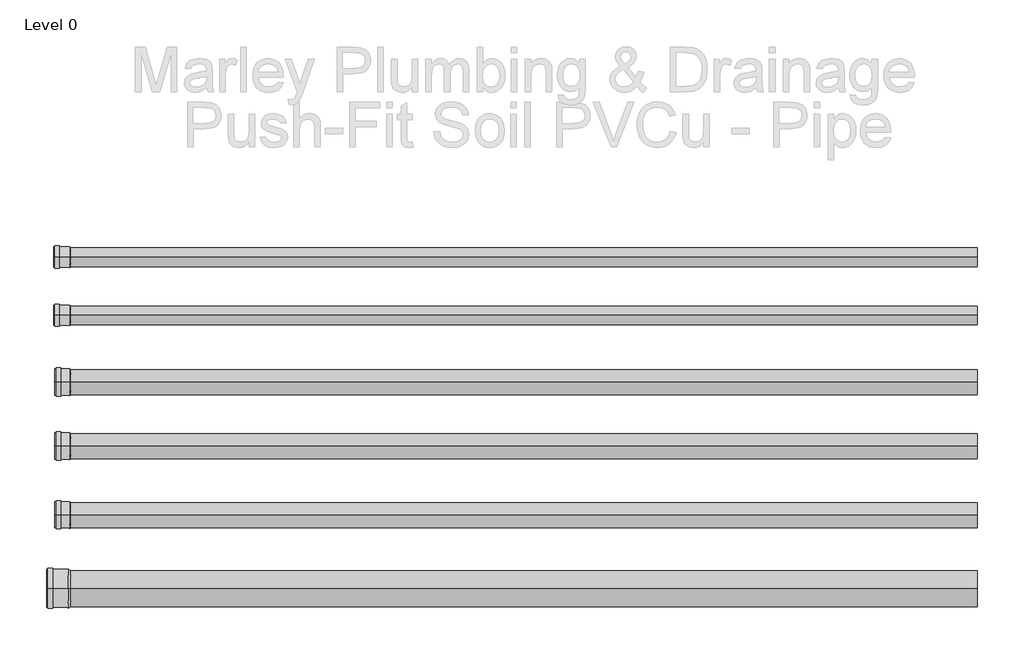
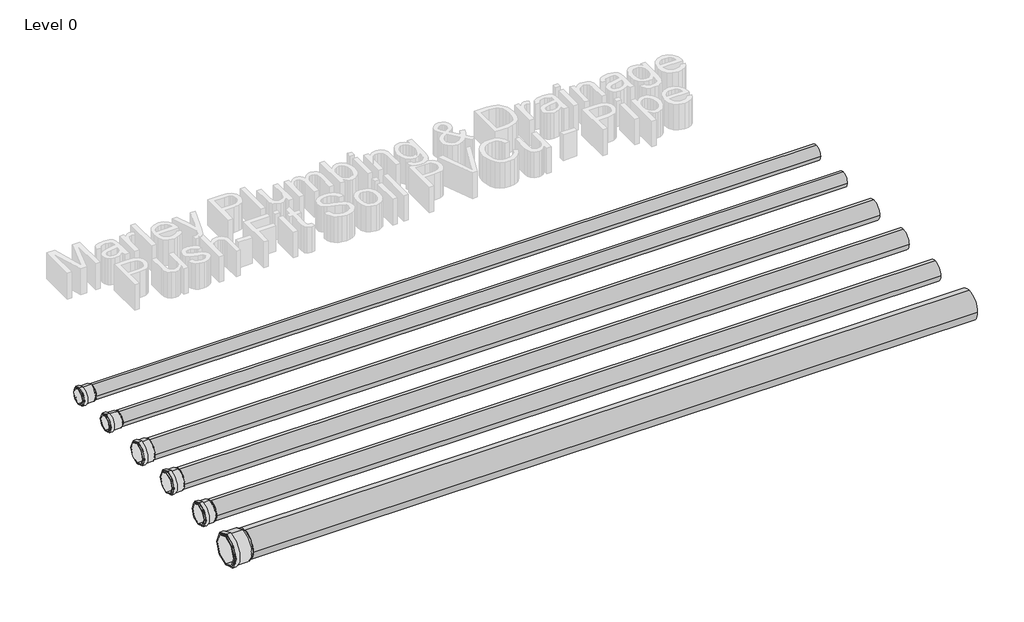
# One storey, part 1 of 2: 6 pipe fittings, 6 pipe segments.
"""IFC4 building model written with IfcOpenShell, lengths in millimetres."""

import ifcopenshell
import ifcopenshell.guid

model = None  # the IFC model being written
_history = None  # IfcOwnerHistory: only IFC2X3 demands one
_inside = {}  # id of a spatial element -> (the spatial element, [elements in it])
_under = {}  # id of a project, library or spatial element -> (it, [spatial elements below it])
_declared = {}  # id of a project -> (the project, [libraries it declares])
_typed = {}  # id of a type object -> (the type object, [elements of that type])
_made_of = {}  # id of a material, layer set ... -> (it, [elements and type objects made of it])


def new_model(schema):
    """Start an empty IFC model of exactly this schema.

    Asked for "IFC4X3", IfcOpenShell would pick the latest addendum, in which some entities
    have other attributes; the version numbers below select the first issue.
    IFC2X3 requires an IfcOwnerHistory on every rooted entity: one is made here for all.
    """
    global model, _history
    if schema == "IFC4X3":
        model = ifcopenshell.file(schema_version=(4, 3, 0, 0))
    else:
        model = ifcopenshell.file(schema=schema)
    _inside.clear()
    _under.clear()
    _declared.clear()
    _typed.clear()
    _made_of.clear()
    _history = None
    if model.schema == "IFC2X3":
        org = make("IfcOrganization", Name="unknown")
        user = make(
            "IfcPersonAndOrganization",
            ThePerson=make("IfcPerson", FamilyName="unknown"),
            TheOrganization=org,
        )
        app = make(
            "IfcApplication",
            ApplicationDeveloper=org,
            Version="unknown",
            ApplicationFullName="unknown",
            ApplicationIdentifier="unknown",
        )
        _history = make(
            "IfcOwnerHistory",
            OwningUser=user,
            OwningApplication=app,
            ChangeAction="ADDED",
            CreationDate=0,
        )
    return model


def make(cls, **values):
    """One entity of the class cls with the attributes given. An attribute that is None is left unset."""
    return model.create_entity(
        cls, **{name: value for name, value in values.items() if value is not None}
    )


def rooted(cls, **values):
    """An entity with a GlobalId (a new one), such as an element, a storey or a relation."""
    return make(cls, GlobalId=ifcopenshell.guid.new(), OwnerHistory=_history, **values)


def si_unit(unit_type, name, prefix=None):
    """IfcSIUnit, for example si_unit("LENGTHUNIT", "METRE", prefix="MILLI")."""
    return make("IfcSIUnit", UnitType=unit_type, Prefix=prefix, Name=name)


def assignment(units):
    """IfcUnitAssignment: the units of a project."""
    return None if units is None else make("IfcUnitAssignment", Units=units)


def point(xyz):
    """IfcCartesianPoint."""
    return None if xyz is None else make("IfcCartesianPoint", Coordinates=xyz)


def direction(xyz):
    """IfcDirection."""
    return None if xyz is None else make("IfcDirection", DirectionRatios=xyz)


def frame(location, z_axis=None, x_axis=None):
    """IfcAxis2Placement3D, a coordinate frame: its origin and axes. An axis left out is left unset."""
    return make(
        "IfcAxis2Placement3D",
        Location=point(location),
        Axis=direction(z_axis),
        RefDirection=direction(x_axis),
    )


def frame_2d(location, x_axis=None):
    """IfcAxis2Placement2D, a coordinate frame in the plane: its origin and x axis."""
    return make(
        "IfcAxis2Placement2D", Location=point(location), RefDirection=direction(x_axis)
    )


def origin():
    """The frame at (0, 0, 0) with its axes left unset."""
    return frame((0.0, 0.0, 0.0))


def place(relative_to, where):
    """IfcLocalPlacement: puts the frame where relative to a parent placement (None: the world)."""
    return make(
        "IfcLocalPlacement", PlacementRelTo=relative_to, RelativePlacement=where
    )


def context(
    kind, dimensions, precision=None, world=None, true_north=None, identifier=None
):
    """IfcGeometricRepresentationContext, for example the 3D "Model" context."""
    return make(
        "IfcGeometricRepresentationContext",
        ContextIdentifier=identifier,
        ContextType=kind,
        CoordinateSpaceDimension=dimensions,
        Precision=precision,
        WorldCoordinateSystem=world,
        TrueNorth=true_north,
    )


def project(units=None, contexts=None):
    """IfcProject with its units and contexts."""
    return rooted(
        "IfcProject",
        Name="project",
        RepresentationContexts=contexts,
        UnitsInContext=assignment(units),
    )


def spatial(cls, under=None, at=None, **own):
    """A site, building, storey or space (cls), placed at a placement, below another one or the project."""
    s = rooted(cls, ObjectPlacement=at, **own)
    if under is not None:
        _under.setdefault(under.id(), (under, []))[1].append(s)
    return s


def polyline(points):
    """IfcPolyline through the points."""
    return make("IfcPolyline", Points=[point(p) for p in points])


def circle_curve(where, radius):
    """IfcCircle in the frame where."""
    return make("IfcCircle", Position=where, Radius=radius)


def trimmed(basis, trim1, trim2, sense, master):
    """IfcTrimmedCurve: the piece of a basis curve between two trims."""
    return make(
        "IfcTrimmedCurve",
        BasisCurve=basis,
        Trim1=trim1,
        Trim2=trim2,
        SenseAgreement=sense,
        MasterRepresentation=master,
    )


def segment(curve, same_sense, transition):
    """IfcCompositeCurveSegment."""
    return make(
        "IfcCompositeCurveSegment",
        Transition=transition,
        SameSense=same_sense,
        ParentCurve=curve,
    )


def composite_curve(segments, self_intersect=None):
    """IfcCompositeCurve: segments joined end to end."""
    return make("IfcCompositeCurve", Segments=segments, SelfIntersect=self_intersect)


def outline(outer, holes=None, kind="AREA"):
    """IfcArbitraryClosedProfileDef: a profile drawn as a closed curve; with holes, ...WithVoids."""
    if holes is None:
        return make("IfcArbitraryClosedProfileDef", ProfileType=kind, OuterCurve=outer)
    return make(
        "IfcArbitraryProfileDefWithVoids",
        ProfileType=kind,
        OuterCurve=outer,
        InnerCurves=holes,
    )


def extrude(swept, where, along, depth):
    """IfcExtrudedAreaSolid: the profile swept, set in the frame where, extruded along a direction by depth."""
    return make(
        "IfcExtrudedAreaSolid",
        SweptArea=swept,
        Position=where,
        ExtrudedDirection=direction(along),
        Depth=depth,
    )


def shape(context_of_items, identifier, shape_type, items):
    """IfcShapeRepresentation: the items that make up one representation, for example the "Body"."""
    return make(
        "IfcShapeRepresentation",
        ContextOfItems=context_of_items,
        RepresentationIdentifier=identifier,
        RepresentationType=shape_type,
        Items=items,
    )


def source(mapping_origin, context_of_items, identifier, shape_type, items):
    """IfcRepresentationMap: a shape defined once, which mapped items show again and again."""
    return make(
        "IfcRepresentationMap",
        MappingOrigin=mapping_origin,
        MappedRepresentation=shape(context_of_items, identifier, shape_type, items),
    )


def transform(
    local_origin,
    x_axis=None,
    y_axis=None,
    z_axis=None,
    scale=None,
    scale2=None,
    scale3=None,
    uniform=True,
):
    """IfcCartesianTransformationOperator3D, or its non-uniform kind. x_axis, y_axis, z_axis: its Axis1, 2, 3."""
    if uniform:
        return make(
            "IfcCartesianTransformationOperator3D",
            Axis1=direction(x_axis),
            Axis2=direction(y_axis),
            LocalOrigin=point(local_origin),
            Scale=scale,
            Axis3=direction(z_axis),
        )
    return make(
        "IfcCartesianTransformationOperator3DnonUniform",
        Axis1=direction(x_axis),
        Axis2=direction(y_axis),
        LocalOrigin=point(local_origin),
        Scale=scale,
        Axis3=direction(z_axis),
        Scale2=scale2,
        Scale3=scale3,
    )


def mapped(mapping_source, mapping_target):
    """IfcMappedItem: shows the shape of a source again, moved by a transform."""
    return make(
        "IfcMappedItem", MappingSource=mapping_source, MappingTarget=mapping_target
    )


def made_of(thing, what):
    """Note that an element or type object is made of a material, layer set ...; save() writes the relation."""
    if what is not None:
        _made_of.setdefault(what.id(), (what, []))[1].append(thing)
    return thing


def element(
    cls,
    number,
    at=None,
    inside=None,
    cuts=None,
    type_object=None,
    material=None,
    context=None,
    identifier="Body",
    shape_type=None,
    held_by="IfcProductDefinitionShape",
    body=None,
    shapes=None,
    **own,
):
    """One element of the class cls, such as IfcWall. Its Tag is "e" and its number.

    at: its placement. inside: the storey or other place that contains it. cuts: it is an
    opening in that element (IfcRelVoidsElement). A single representation is given by context,
    identifier, shape_type and body (its items); several are given by shapes. held_by: the class
    of the entity that holds the representations. save() writes the other relations.
    """
    e = rooted(cls, Tag="e%d" % number, ObjectPlacement=at, **own)
    if body is not None:
        shapes = [shape(context, identifier, shape_type, body)]
    if shapes is not None:
        e.Representation = make(held_by, Representations=shapes)
    if inside is not None:
        _inside.setdefault(inside.id(), (inside, []))[1].append(e)
    if cuts is not None:
        rooted(
            "IfcRelVoidsElement", RelatingBuildingElement=cuts, RelatedOpeningElement=e
        )
    if type_object is not None:
        _typed.setdefault(type_object.id(), (type_object, []))[1].append(e)
    return made_of(e, material)


def aggregate(whole, parts):
    """IfcRelAggregates: a whole, such as a stair, and the parts it consists of."""
    return rooted("IfcRelAggregates", RelatingObject=whole, RelatedObjects=parts)


def save(model, path):
    """Write the relations noted so far, then the file.

    IfcRelAggregates (storeys below a building ...), IfcRelContainedInSpatialStructure (elements
    in a storey), IfcRelDefinesByType, IfcRelAssociatesMaterial and IfcRelDeclares: one each for
    every whole, place, type object, material and project.
    """
    for whole, parts in _under.values():
        aggregate(whole, parts)
    for where, things in _inside.values():
        rooted(
            "IfcRelContainedInSpatialStructure",
            RelatedElements=things,
            RelatingStructure=where,
        )
    for kind, things in _typed.values():
        rooted("IfcRelDefinesByType", RelatedObjects=things, RelatingType=kind)
    for what, things in _made_of.values():
        rooted("IfcRelAssociatesMaterial", RelatedObjects=things, RelatingMaterial=what)
    for by, libraries in _declared.values():
        rooted("IfcRelDeclares", RelatingContext=by, RelatedDefinitions=libraries)
    model.write(path)


def plane_surface(at):
    """IfcPlane: the flat surface through the origin of the frame at, square to its z axis."""
    return make("IfcPlane", Position=at)


def cylinder_surface(at, radius):
    """IfcCylindricalSurface: all points at the distance radius from the z axis of the frame at."""
    return make("IfcCylindricalSurface", Position=at, Radius=radius)


def revolved_surface(curve, axis_point, axis_direction):
    """IfcSurfaceOfRevolution: the curve turned about the line through axis_point along axis_direction."""
    return make(
        "IfcSurfaceOfRevolution",
        SweptCurve=make("IfcArbitraryOpenProfileDef", ProfileType="CURVE", Curve=curve),
        AxisPosition=make("IfcAxis1Placement", Location=point(axis_point), Axis=direction(axis_direction)),
    )


def advanced_brep(points, edges, surfaces, faces):
    """IfcAdvancedBrep: a solid bounded by faces that lie on surfaces and meet in shared edges.

    An edge is (start, end): straight between two places in points (the first is 0);
    or (start, end, curve); or (start, end, curve, False) where it runs against its curve.
    A face is (place in surfaces, loops), or (place, loops, False) where it looks against
    its surface's normal. A loop lists edges by number (the first is 1), with a minus sign
    where the edge is run from its end to its start. The first loop is the outer one.
    """
    corners = [point(p) for p in points]
    vertices = [make("IfcVertexPoint", VertexGeometry=c) for c in corners]
    made = []
    for start, end, *more in edges:
        made.append(
            make(
                "IfcEdgeCurve",
                EdgeStart=vertices[start],
                EdgeEnd=vertices[end],
                EdgeGeometry=more[0] if more else make("IfcPolyline", Points=[corners[start], corners[end]]),
                SameSense=more[1] if len(more) > 1 else True,
            )
        )
    hull = []
    for where, loops, *sense in faces:
        bounds = []
        for j, loop in enumerate(loops):
            ring = [make("IfcOrientedEdge", EdgeElement=made[abs(k) - 1], Orientation=k > 0) for k in loop]
            bounds.append(
                make(
                    "IfcFaceOuterBound" if j == 0 else "IfcFaceBound",
                    Bound=make("IfcEdgeLoop", EdgeList=ring),
                    Orientation=True,
                )
            )
        hull.append(make("IfcAdvancedFace", Bounds=bounds, FaceSurface=surfaces[where], SameSense=sense[0] if sense else True))
    return make("IfcAdvancedBrep", Outer=make("IfcClosedShell", CfsFaces=hull))


def socket_110mm_black_703dc98e(model_context):
    return source(origin(), model_context, "Body", "AdvancedBrep", [
        advanced_brep(
        [(-14.8253818, 0.0, -55.0), (-14.8253818, 0.0, 55.0), (-9.3253818, 0.0, 59.5), (-9.3253818, 0.0, -59.5), (55.1746182, 0.0, -55.0), (55.1746182, 0.0, 55.0), (55.1746182, 0.0, -59.5), (55.1746182, 0.0, 59.5), (49.1746182, 0.0, -59.5), (49.1746182, 0.0, 59.5), (49.1746182, 0.0, -64.0), (49.1746182, 0.0, 64.0), (30.1746182, 0.0, -64.0), (30.1746182, 0.0, 64.0), (30.1746182, 0.0, -59.5), (30.1746182, 0.0, 59.5)],
        [
            (0, 1, circle_curve(frame((-14.8253818, 0.0, 0.0), z_axis=(1.0, 0.0, 0.0), x_axis=(0.0, 0.0, 1.0)), 55.0)),
            (1, 2),
            (2, 3, circle_curve(frame((-9.3253818, 0.0, 0.0), z_axis=(-1.0, 0.0, 0.0), x_axis=(0.0, 0.0, 1.0)), 59.5)),
            (3, 0),
            (1, 0, circle_curve(frame((-14.8253818, 0.0, 0.0), z_axis=(1.0, 0.0, 0.0), x_axis=(0.0, 0.0, 1.0)), 55.0)),
            (3, 2, circle_curve(frame((-9.3253818, 0.0, 0.0), z_axis=(-1.0, 0.0, 0.0), x_axis=(0.0, 0.0, 1.0)), 59.5)),
            (4, 5, circle_curve(frame((55.1746182, 0.0, 0.0), z_axis=(1.0, 0.0, 0.0), x_axis=(0.0, 0.0, 1.0)), 55.0)),
            (5, 1),
            (0, 4),
            (5, 4, circle_curve(frame((55.1746182, 0.0, 0.0), z_axis=(1.0, 0.0, 0.0), x_axis=(0.0, 0.0, 1.0)), 55.0)),
            (6, 7, circle_curve(frame((55.1746182, 0.0, 0.0), z_axis=(1.0, 0.0, 0.0), x_axis=(0.0, 0.0, 1.0)), 59.5)),
            (7, 5),
            (4, 6),
            (7, 6, circle_curve(frame((55.1746182, 0.0, 0.0), z_axis=(1.0, 0.0, 0.0), x_axis=(0.0, 0.0, 1.0)), 59.5)),
            (8, 9, circle_curve(frame((49.1746182, 0.0, 0.0), z_axis=(1.0, 0.0, 0.0), x_axis=(0.0, 0.0, 1.0)), 59.5)),
            (9, 7),
            (6, 8),
            (9, 8, circle_curve(frame((49.1746182, 0.0, 0.0), z_axis=(1.0, 0.0, 0.0), x_axis=(0.0, 0.0, 1.0)), 59.5)),
            (10, 11, circle_curve(frame((49.1746182, 0.0, 0.0), z_axis=(1.0, 0.0, 0.0), x_axis=(0.0, 0.0, 1.0)), 64.0)),
            (11, 9),
            (8, 10),
            (11, 10, circle_curve(frame((49.1746182, 0.0, 0.0), z_axis=(1.0, 0.0, 0.0), x_axis=(0.0, 0.0, 1.0)), 64.0)),
            (12, 13, circle_curve(frame((30.1746182, 0.0, 0.0), z_axis=(1.0, 0.0, 0.0), x_axis=(0.0, 0.0, 1.0)), 64.0)),
            (13, 11),
            (10, 12),
            (13, 12, circle_curve(frame((30.1746182, 0.0, 0.0), z_axis=(1.0, 0.0, 0.0), x_axis=(0.0, 0.0, 1.0)), 64.0)),
            (14, 15, circle_curve(frame((30.1746182, 0.0, 0.0), z_axis=(1.0, 0.0, 0.0), x_axis=(0.0, 0.0, 1.0)), 59.5)),
            (15, 13),
            (12, 14),
            (15, 14, circle_curve(frame((30.1746182, 0.0, 0.0), z_axis=(1.0, 0.0, 0.0), x_axis=(0.0, 0.0, 1.0)), 59.5)),
            (2, 15),
            (14, 3),
        ],
        [
            revolved_surface(polyline([(-9.3253818, 0.0, 59.5), (-14.8253818, 0.0, 55.0)]), (-1506.5299635, 0.0, 0.0), (-1.0, 0.0, 0.0)),
            revolved_surface(polyline([(-14.82538180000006, 0.0, 55.0), (55.17461819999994, 0.0, 55.0)]), (-1506.5299635, 0.0, 0.0), (-1.0, 0.0, 0.0)),
            plane_surface(frame((55.1746182, 0.0, 0.0), z_axis=(1.0, 0.0, 0.0), x_axis=(0.0, 0.0, 1.0))),
            cylinder_surface(frame((-1506.5299635, 0.0, 0.0), z_axis=(-1.0, 0.0, 0.0), x_axis=(0.0, 0.0, 1.0)), 59.5),
            plane_surface(frame((49.1746182, 0.0, 0.0), z_axis=(1.0, 0.0, 0.0), x_axis=(0.0, 0.0, 1.0))),
            cylinder_surface(frame((-1506.5299635, 0.0, 0.0), z_axis=(-1.0, 0.0, 0.0), x_axis=(0.0, 0.0, 1.0)), 64.0),
            plane_surface(frame((30.1746182, 0.0, 0.0), z_axis=(-1.0, 0.0, 0.0), x_axis=(0.0, 0.0, 1.0))),
        ],
        [
            (0, [[1, 2, 3, 4]]),
            (0, [[5, -4, 6, -2]]),
            (1, [[7, 8, -1, 9]]),
            (1, [[10, -9, -5, -8]]),
            (2, [[11, 12, -7, 13]]),
            (2, [[14, -13, -10, -12]]),
            (3, [[15, 16, -11, 17]]),
            (3, [[18, -17, -14, -16]]),
            (4, [[19, 20, -15, 21]]),
            (4, [[22, -21, -18, -20]]),
            (5, [[23, 24, -19, 25]]),
            (5, [[26, -25, -22, -24]]),
            (6, [[27, 28, -23, 29]]),
            (6, [[30, -29, -26, -28]]),
            (3, [[-3, 31, -27, 32]]),
            (3, [[-6, -32, -30, -31]]),
        ],
    ),
    ])


def socket_160mm_grey_d93e64ae(model_context):
    return source(origin(), model_context, "Body", "AdvancedBrep", [
        advanced_brep(
        [(-14.8253818, 0.0, -80.0), (-14.8253818, 0.0, 80.0), (-2.8253818, 0.0, 85.5), (-2.8253818, 0.0, -85.5), (92.1746182, 0.0, -80.0), (92.1746182, 0.0, 80.0), (92.1746182, 0.0, -85.5), (92.1746182, 0.0, 85.5), (86.1746182, 0.0, -85.5), (86.1746182, 0.0, 85.5), (86.1746182, 0.0, -91.0), (86.1746182, 0.0, 91.0), (64.1746182, 0.0, -91.0), (64.1746182, 0.0, 91.0), (64.1746182, 0.0, -85.5), (64.1746182, 0.0, 85.5)],
        [
            (0, 1, circle_curve(frame((-14.8253818, 0.0, 0.0), z_axis=(1.0, 0.0, 0.0), x_axis=(0.0, 0.0, 1.0)), 80.0)),
            (1, 2),
            (2, 3, circle_curve(frame((-2.8253818, 0.0, 0.0), z_axis=(-1.0, 0.0, 0.0), x_axis=(0.0, 0.0, 1.0)), 85.5)),
            (3, 0),
            (1, 0, circle_curve(frame((-14.8253818, 0.0, 0.0), z_axis=(1.0, 0.0, 0.0), x_axis=(0.0, 0.0, 1.0)), 80.0)),
            (3, 2, circle_curve(frame((-2.8253818, 0.0, 0.0), z_axis=(-1.0, 0.0, 0.0), x_axis=(0.0, 0.0, 1.0)), 85.5)),
            (4, 5, circle_curve(frame((92.1746182, 0.0, 0.0), z_axis=(1.0, 0.0, 0.0), x_axis=(0.0, 0.0, 1.0)), 80.0)),
            (5, 1),
            (0, 4),
            (5, 4, circle_curve(frame((92.1746182, 0.0, 0.0), z_axis=(1.0, 0.0, 0.0), x_axis=(0.0, 0.0, 1.0)), 80.0)),
            (6, 7, circle_curve(frame((92.1746182, 0.0, 0.0), z_axis=(1.0, 0.0, 0.0), x_axis=(0.0, 0.0, 1.0)), 85.5)),
            (7, 5),
            (4, 6),
            (7, 6, circle_curve(frame((92.1746182, 0.0, 0.0), z_axis=(1.0, 0.0, 0.0), x_axis=(0.0, 0.0, 1.0)), 85.5)),
            (8, 9, circle_curve(frame((86.1746182, 0.0, 0.0), z_axis=(1.0, 0.0, 0.0), x_axis=(0.0, 0.0, 1.0)), 85.5)),
            (9, 7),
            (6, 8),
            (9, 8, circle_curve(frame((86.1746182, 0.0, 0.0), z_axis=(1.0, 0.0, 0.0), x_axis=(0.0, 0.0, 1.0)), 85.5)),
            (10, 11, circle_curve(frame((86.1746182, 0.0, 0.0), z_axis=(1.0, 0.0, 0.0), x_axis=(0.0, 0.0, 1.0)), 91.0)),
            (11, 9),
            (8, 10),
            (11, 10, circle_curve(frame((86.1746182, 0.0, 0.0), z_axis=(1.0, 0.0, 0.0), x_axis=(0.0, 0.0, 1.0)), 91.0)),
            (12, 13, circle_curve(frame((64.1746182, 0.0, 0.0), z_axis=(1.0, 0.0, 0.0), x_axis=(0.0, 0.0, 1.0)), 91.0)),
            (13, 11),
            (10, 12),
            (13, 12, circle_curve(frame((64.1746182, 0.0, 0.0), z_axis=(1.0, 0.0, 0.0), x_axis=(0.0, 0.0, 1.0)), 91.0)),
            (14, 15, circle_curve(frame((64.1746182, 0.0, 0.0), z_axis=(1.0, 0.0, 0.0), x_axis=(0.0, 0.0, 1.0)), 85.5)),
            (15, 13),
            (12, 14),
            (15, 14, circle_curve(frame((64.1746182, 0.0, 0.0), z_axis=(1.0, 0.0, 0.0), x_axis=(0.0, 0.0, 1.0)), 85.5)),
            (2, 15),
            (14, 3),
        ],
        [
            revolved_surface(polyline([(-2.8253818, 0.0, 85.5), (-14.8253818, 0.0, 80.0)]), (-1506.5299635, 0.0, 0.0), (-1.0, 0.0, 0.0)),
            revolved_surface(polyline([(-14.82538180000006, 0.0, 80.0), (92.17461819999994, 0.0, 80.0)]), (-1506.5299635, 0.0, 0.0), (-1.0, 0.0, 0.0)),
            plane_surface(frame((92.1746182, 0.0, 0.0), z_axis=(1.0, 0.0, 0.0), x_axis=(0.0, 0.0, 1.0))),
            cylinder_surface(frame((-1506.5299635, 0.0, 0.0), z_axis=(-1.0, 0.0, 0.0), x_axis=(0.0, 0.0, 1.0)), 85.5),
            plane_surface(frame((86.1746182, 0.0, 0.0), z_axis=(1.0, 0.0, 0.0), x_axis=(0.0, 0.0, 1.0))),
            cylinder_surface(frame((-1506.5299635, 0.0, 0.0), z_axis=(-1.0, 0.0, 0.0), x_axis=(0.0, 0.0, 1.0)), 91.0),
            plane_surface(frame((64.1746182, 0.0, 0.0), z_axis=(-1.0, 0.0, 0.0), x_axis=(0.0, 0.0, 1.0))),
        ],
        [
            (0, [[1, 2, 3, 4]]),
            (0, [[5, -4, 6, -2]]),
            (1, [[7, 8, -1, 9]]),
            (1, [[10, -9, -5, -8]]),
            (2, [[11, 12, -7, 13]]),
            (2, [[14, -13, -10, -12]]),
            (3, [[15, 16, -11, 17]]),
            (3, [[18, -17, -14, -16]]),
            (4, [[19, 20, -15, 21]]),
            (4, [[22, -21, -18, -20]]),
            (5, [[23, 24, -19, 25]]),
            (5, [[26, -25, -22, -24]]),
            (6, [[27, 28, -23, 29]]),
            (6, [[30, -29, -26, -28]]),
            (3, [[-3, 31, -27, 32]]),
            (3, [[-6, -32, -30, -31]]),
        ],
    ),
    ])


def socket_82mm_black_adff162a(model_context):
    return source(origin(), model_context, "Body", "AdvancedBrep", [
        advanced_brep(
        [(-14.8253818, 0.0, -41.0), (-14.8253818, 0.0, 41.0), (-9.3253818, 0.0, 45.5), (-9.3253818, 0.0, -45.5), (61.1746182, 0.0, -41.0), (61.1746182, 0.0, 41.0), (61.1746182, 0.0, -45.5), (61.1746182, 0.0, 45.5), (55.1746182, 0.0, -45.5), (55.1746182, 0.0, 45.5), (55.1746182, 0.0, -50.0), (55.1746182, 0.0, 50.0), (37.1746182, 0.0, -50.0), (37.1746182, 0.0, 50.0), (37.1746182, 0.0, -45.5), (37.1746182, 0.0, 45.5)],
        [
            (0, 1, circle_curve(frame((-14.8253818, 0.0, 0.0), z_axis=(1.0, 0.0, 0.0), x_axis=(0.0, 0.0, 1.0)), 41.0)),
            (1, 2),
            (2, 3, circle_curve(frame((-9.3253818, 0.0, 0.0), z_axis=(-1.0, 0.0, 0.0), x_axis=(0.0, 0.0, 1.0)), 45.5)),
            (3, 0),
            (1, 0, circle_curve(frame((-14.8253818, 0.0, 0.0), z_axis=(1.0, 0.0, 0.0), x_axis=(0.0, 0.0, 1.0)), 41.0)),
            (3, 2, circle_curve(frame((-9.3253818, 0.0, 0.0), z_axis=(-1.0, 0.0, 0.0), x_axis=(0.0, 0.0, 1.0)), 45.5)),
            (4, 5, circle_curve(frame((61.1746182, 0.0, 0.0), z_axis=(1.0, 0.0, 0.0), x_axis=(0.0, 0.0, 1.0)), 41.0)),
            (5, 1),
            (0, 4),
            (5, 4, circle_curve(frame((61.1746182, 0.0, 0.0), z_axis=(1.0, 0.0, 0.0), x_axis=(0.0, 0.0, 1.0)), 41.0)),
            (6, 7, circle_curve(frame((61.1746182, 0.0, 0.0), z_axis=(1.0, 0.0, 0.0), x_axis=(0.0, 0.0, 1.0)), 45.5)),
            (7, 5),
            (4, 6),
            (7, 6, circle_curve(frame((61.1746182, 0.0, 0.0), z_axis=(1.0, 0.0, 0.0), x_axis=(0.0, 0.0, 1.0)), 45.5)),
            (8, 9, circle_curve(frame((55.1746182, 0.0, 0.0), z_axis=(1.0, 0.0, 0.0), x_axis=(0.0, 0.0, 1.0)), 45.5)),
            (9, 7),
            (6, 8),
            (9, 8, circle_curve(frame((55.1746182, 0.0, 0.0), z_axis=(1.0, 0.0, 0.0), x_axis=(0.0, 0.0, 1.0)), 45.5)),
            (10, 11, circle_curve(frame((55.1746182, 0.0, 0.0), z_axis=(1.0, 0.0, 0.0), x_axis=(0.0, 0.0, 1.0)), 50.0)),
            (11, 9),
            (8, 10),
            (11, 10, circle_curve(frame((55.1746182, 0.0, 0.0), z_axis=(1.0, 0.0, 0.0), x_axis=(0.0, 0.0, 1.0)), 50.0)),
            (12, 13, circle_curve(frame((37.1746182, 0.0, 0.0), z_axis=(1.0, 0.0, 0.0), x_axis=(0.0, 0.0, 1.0)), 50.0)),
            (13, 11),
            (10, 12),
            (13, 12, circle_curve(frame((37.1746182, 0.0, 0.0), z_axis=(1.0, 0.0, 0.0), x_axis=(0.0, 0.0, 1.0)), 50.0)),
            (14, 15, circle_curve(frame((37.1746182, 0.0, 0.0), z_axis=(1.0, 0.0, 0.0), x_axis=(0.0, 0.0, 1.0)), 45.5)),
            (15, 13),
            (12, 14),
            (15, 14, circle_curve(frame((37.1746182, 0.0, 0.0), z_axis=(1.0, 0.0, 0.0), x_axis=(0.0, 0.0, 1.0)), 45.5)),
            (2, 15),
            (14, 3),
        ],
        [
            revolved_surface(polyline([(-9.3253818, 0.0, 45.5), (-14.8253818, 0.0, 41.0)]), (-1506.5299635, 0.0, 0.0), (-1.0, 0.0, 0.0)),
            revolved_surface(polyline([(-14.82538180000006, 0.0, 41.0), (61.17461819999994, 0.0, 41.0)]), (-1506.5299635, 0.0, 0.0), (-1.0, 0.0, 0.0)),
            plane_surface(frame((61.1746182, 0.0, 0.0), z_axis=(1.0, 0.0, 0.0), x_axis=(0.0, 0.0, 1.0))),
            cylinder_surface(frame((-1506.5299635, 0.0, 0.0), z_axis=(-1.0, 0.0, 0.0), x_axis=(0.0, 0.0, 1.0)), 45.5),
            plane_surface(frame((55.1746182, 0.0, 0.0), z_axis=(1.0, 0.0, 0.0), x_axis=(0.0, 0.0, 1.0))),
            cylinder_surface(frame((-1506.5299635, 0.0, 0.0), z_axis=(-1.0, 0.0, 0.0), x_axis=(0.0, 0.0, 1.0)), 50.0),
            plane_surface(frame((37.1746182, 0.0, 0.0), z_axis=(-1.0, 0.0, 0.0), x_axis=(0.0, 0.0, 1.0))),
        ],
        [
            (0, [[1, 2, 3, 4]]),
            (0, [[5, -4, 6, -2]]),
            (1, [[7, 8, -1, 9]]),
            (1, [[10, -9, -5, -8]]),
            (2, [[11, 12, -7, 13]]),
            (2, [[14, -13, -10, -12]]),
            (3, [[15, 16, -11, 17]]),
            (3, [[18, -17, -14, -16]]),
            (4, [[19, 20, -15, 21]]),
            (4, [[22, -21, -18, -20]]),
            (5, [[23, 24, -19, 25]]),
            (5, [[26, -25, -22, -24]]),
            (6, [[27, 28, -23, 29]]),
            (6, [[30, -29, -26, -28]]),
            (3, [[-3, 31, -27, 32]]),
            (3, [[-6, -32, -30, -31]]),
        ],
    ),
    ])


model = new_model("IFC4")

# Units and contexts
model_context = context("Model", 3, world=origin())
ifc_project = project(units=[si_unit("LENGTHUNIT", "METRE", prefix="MILLI")], contexts=[model_context])

# Site, building, storey
site = spatial("IfcSite", under=ifc_project)
building = spatial("IfcBuilding", under=site)
storey = spatial("IfcBuildingStorey", under=building, Name="Level 0", Elevation=0.0)

# Pipe fittings
placement = place(None, origin())
socket_110mm_black_shape = socket_110mm_black_703dc98e(model_context)
element("IfcPipeFitting", 1, ObjectType="Socket : 110mm - Black", at=placement, inside=storey, context=model_context, shape_type="MappedRepresentation", body=[
    mapped(socket_110mm_black_shape, transform((-27416.9693977, 8399.9656698, 0.0), x_axis=(-1.0, 0.0, 0.0), y_axis=(0.0, -1.0, 0.0), z_axis=(0.0, 0.0, 1.0))),
])
element("IfcPipeFitting", 2, ObjectType="Socket : 110mm - Grey", at=placement, inside=storey, context=model_context, shape_type="MappedRepresentation", body=[
    mapped(socket_110mm_black_shape, transform((-27416.9693977, 8117.8368131, 0.0), x_axis=(-1.0, 0.0, 0.0), y_axis=(0.0, -1.0, 0.0), z_axis=(0.0, 0.0, 1.0))),
])
element("IfcPipeFitting", 3, ObjectType="Socket : 110mm - White", at=placement, inside=storey, context=model_context, shape_type="MappedRepresentation", body=[
    mapped(socket_110mm_black_shape, transform((-27416.9693977, 7813.8884152, 0.0), x_axis=(-1.0, 0.0, 0.0), y_axis=(0.0, -1.0, 0.0), z_axis=(0.0, 0.0, 1.0))),
])
socket_160mm_grey_shape = socket_160mm_grey_d93e64ae(model_context)
element("IfcPipeFitting", 4, ObjectType="Socket : 160mm - Grey", at=placement, inside=storey, context=model_context, shape_type="MappedRepresentation", body=[
    mapped(socket_160mm_grey_shape, transform((-27416.9693977, 7488.9614868, 0.0), x_axis=(-1.0, 0.0, 0.0), y_axis=(0.0, -1.0, 0.0), z_axis=(0.0, 0.0, 1.0))),
])
socket_82mm_black_shape = socket_82mm_black_adff162a(model_context)
element("IfcPipeFitting", 5, ObjectType="Socket : 82mm - Black", at=placement, inside=storey, context=model_context, shape_type="MappedRepresentation", body=[
    mapped(socket_82mm_black_shape, transform((-27416.9693977, 8951.3993442, 0.0), x_axis=(-1.0, 0.0, 0.0), y_axis=(0.0, -1.0, 0.0), z_axis=(0.0, 0.0, 1.0))),
])
element("IfcPipeFitting", 6, ObjectType="Socket : 82mm - Grey", at=placement, inside=storey, context=model_context, shape_type="MappedRepresentation", body=[
    mapped(socket_82mm_black_shape, transform((-27416.9693977, 8694.9185654, 0.0), x_axis=(-1.0, 0.0, 0.0), y_axis=(0.0, -1.0, 0.0), z_axis=(0.0, 0.0, 1.0))),
])

# Pipe segments
element("IfcPipeSegment", 7, ObjectType="Marley Plumbing and Drainage 82mm - Black", at=placement, inside=storey, context=model_context, shape_type="SweptSolid", body=[
    extrude(outline(composite_curve([segment(trimmed(circle_curve(frame_2d((8951.3993442, 0.0)), 41.0), [point((8910.3993442, 0.0))], [point((8951.3993442, 41.0))], False, "CARTESIAN"), True, "CONTINUOUS"), segment(trimmed(circle_curve(frame_2d((8951.3993442, 0.0)), 41.0), [point((8951.3993442, 41.0))], [point((8992.3993442, 0.0))], False, "CARTESIAN"), True, "CONTINUOUS"), segment(trimmed(circle_curve(frame_2d((8951.3993442, 0.0)), 41.0), [point((8992.3993442, 0.0))], [point((8951.3993442, -41.0))], False, "CARTESIAN"), True, "CONTINUOUS"), segment(trimmed(circle_curve(frame_2d((8951.3993442, 0.0)), 41.0), [point((8951.3993442, -41.0))], [point((8910.3993442, 0.0))], False, "CARTESIAN"), True, "CONTINUOUS")], self_intersect=False)), frame((-27402.1440159, 0.0, 0.0), z_axis=(1.0, 0.0, 0.0), x_axis=(0.0, 1.0, 0.0)), (0.0, 0.0, 1.0), 4000.0),
])
element("IfcPipeSegment", 8, ObjectType="Marley Plumbing and Drainage 82mm - Grey", at=placement, inside=storey, context=model_context, shape_type="SweptSolid", body=[
    extrude(outline(composite_curve([segment(trimmed(circle_curve(frame_2d((8694.9185654, 0.0)), 41.0), [point((8653.9185654, 0.0))], [point((8694.9185654, 41.0))], False, "CARTESIAN"), True, "CONTINUOUS"), segment(trimmed(circle_curve(frame_2d((8694.9185654, 0.0)), 41.0), [point((8694.9185654, 41.0))], [point((8735.9185654, 0.0))], False, "CARTESIAN"), True, "CONTINUOUS"), segment(trimmed(circle_curve(frame_2d((8694.9185654, 0.0)), 41.0), [point((8735.9185654, 0.0))], [point((8694.9185654, -41.0))], False, "CARTESIAN"), True, "CONTINUOUS"), segment(trimmed(circle_curve(frame_2d((8694.9185654, 0.0)), 41.0), [point((8694.9185654, -41.0))], [point((8653.9185654, 0.0))], False, "CARTESIAN"), True, "CONTINUOUS")], self_intersect=False)), frame((-27402.1440159, 0.0, 0.0), z_axis=(1.0, 0.0, 0.0), x_axis=(0.0, 1.0, 0.0)), (0.0, 0.0, 1.0), 4000.0),
])
element("IfcPipeSegment", 9, ObjectType="Marley Plumbing and Drainage 110mm - Black", at=placement, inside=storey, context=model_context, shape_type="SweptSolid", body=[
    extrude(outline(composite_curve([segment(trimmed(circle_curve(frame_2d((8399.9656698, 0.0)), 55.0), [point((8344.9656698, 0.0))], [point((8399.9656698, 55.0))], False, "CARTESIAN"), True, "CONTINUOUS"), segment(trimmed(circle_curve(frame_2d((8399.9656698, 0.0)), 55.0), [point((8399.9656698, 55.0))], [point((8454.9656698, 0.0))], False, "CARTESIAN"), True, "CONTINUOUS"), segment(trimmed(circle_curve(frame_2d((8399.9656698, 0.0)), 55.0), [point((8454.9656698, 0.0))], [point((8399.9656698, -55.0))], False, "CARTESIAN"), True, "CONTINUOUS"), segment(trimmed(circle_curve(frame_2d((8399.9656698, 0.0)), 55.0), [point((8399.9656698, -55.0))], [point((8344.9656698, 0.0))], False, "CARTESIAN"), True, "CONTINUOUS")], self_intersect=False)), frame((-27402.1440159, 0.0, 0.0), z_axis=(1.0, 0.0, 0.0), x_axis=(0.0, 1.0, 0.0)), (0.0, 0.0, 1.0), 4000.0),
])
element("IfcPipeSegment", 10, ObjectType="Marley Plumbing and Drainage 110mm - Grey", at=placement, inside=storey, context=model_context, shape_type="SweptSolid", body=[
    extrude(outline(composite_curve([segment(trimmed(circle_curve(frame_2d((8117.8368131, 0.0)), 55.0), [point((8062.8368131, 0.0))], [point((8117.8368131, 55.0))], False, "CARTESIAN"), True, "CONTINUOUS"), segment(trimmed(circle_curve(frame_2d((8117.8368131, 0.0)), 55.0), [point((8117.8368131, 55.0))], [point((8172.8368131, 0.0))], False, "CARTESIAN"), True, "CONTINUOUS"), segment(trimmed(circle_curve(frame_2d((8117.8368131, 0.0)), 55.0), [point((8172.8368131, 0.0))], [point((8117.8368131, -55.0))], False, "CARTESIAN"), True, "CONTINUOUS"), segment(trimmed(circle_curve(frame_2d((8117.8368131, 0.0)), 55.0), [point((8117.8368131, -55.0))], [point((8062.8368131, 0.0))], False, "CARTESIAN"), True, "CONTINUOUS")], self_intersect=False)), frame((-27402.1440159, 0.0, 0.0), z_axis=(1.0, 0.0, 0.0), x_axis=(0.0, 1.0, 0.0)), (0.0, 0.0, 1.0), 4000.0),
])
element("IfcPipeSegment", 11, ObjectType="Marley Plumbing and Drainage 110mm - White", at=placement, inside=storey, context=model_context, shape_type="SweptSolid", body=[
    extrude(outline(composite_curve([segment(trimmed(circle_curve(frame_2d((7813.8884152, 0.0)), 55.0), [point((7758.8884152, 0.0))], [point((7813.8884152, 55.0))], False, "CARTESIAN"), True, "CONTINUOUS"), segment(trimmed(circle_curve(frame_2d((7813.8884152, 0.0)), 55.0), [point((7813.8884152, 55.0))], [point((7868.8884152, 0.0))], False, "CARTESIAN"), True, "CONTINUOUS"), segment(trimmed(circle_curve(frame_2d((7813.8884152, 0.0)), 55.0), [point((7868.8884152, 0.0))], [point((7813.8884152, -55.0))], False, "CARTESIAN"), True, "CONTINUOUS"), segment(trimmed(circle_curve(frame_2d((7813.8884152, 0.0)), 55.0), [point((7813.8884152, -55.0))], [point((7758.8884152, 0.0))], False, "CARTESIAN"), True, "CONTINUOUS")], self_intersect=False)), frame((-27402.1440159, 0.0, 0.0), z_axis=(1.0, 0.0, 0.0), x_axis=(0.0, 1.0, 0.0)), (0.0, 0.0, 1.0), 4000.0),
])
element("IfcPipeSegment", 12, ObjectType="Marley Plumbing and Drainage 160mm - Grey", at=placement, inside=storey, context=model_context, shape_type="SweptSolid", body=[
    extrude(outline(composite_curve([segment(trimmed(circle_curve(frame_2d((7488.9614868, 0.0)), 80.0), [point((7408.9614868, 0.0))], [point((7488.9614868, 80.0))], False, "CARTESIAN"), True, "CONTINUOUS"), segment(trimmed(circle_curve(frame_2d((7488.9614868, 0.0)), 80.0), [point((7488.9614868, 80.0))], [point((7568.9614868, 0.0))], False, "CARTESIAN"), True, "CONTINUOUS"), segment(trimmed(circle_curve(frame_2d((7488.9614868, 0.0)), 80.0), [point((7568.9614868, 0.0))], [point((7488.9614868, -80.0))], False, "CARTESIAN"), True, "CONTINUOUS"), segment(trimmed(circle_curve(frame_2d((7488.9614868, 0.0)), 80.0), [point((7488.9614868, -80.0))], [point((7408.9614868, 0.0))], False, "CARTESIAN"), True, "CONTINUOUS")], self_intersect=False)), frame((-27402.1440159, 0.0, 0.0), z_axis=(1.0, 0.0, 0.0), x_axis=(0.0, 1.0, 0.0)), (0.0, 0.0, 1.0), 4000.0),
])

save(model, "model.ifc")
